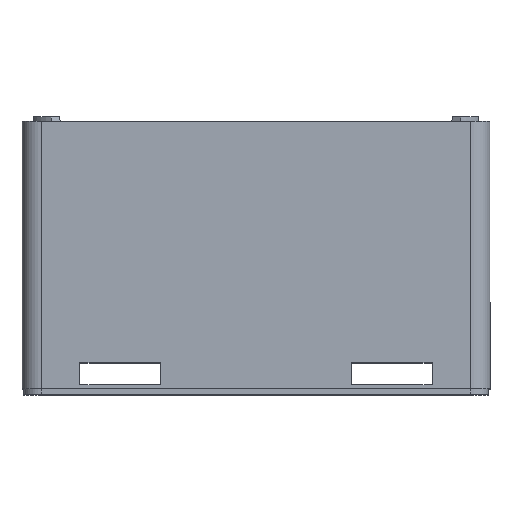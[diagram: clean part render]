
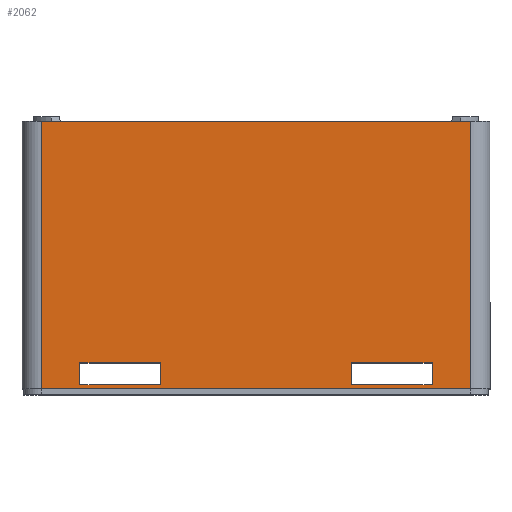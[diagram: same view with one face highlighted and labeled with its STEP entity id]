
A CAD part, top view. The second image highlights one B-rep face of the part: STEP entity #2062.
In plain terms, the highlighted planar face has unit normal (0, 0, 1).
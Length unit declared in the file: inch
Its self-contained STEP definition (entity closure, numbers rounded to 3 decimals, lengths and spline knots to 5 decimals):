
#26 = CARTESIAN_POINT ( 'NONE',  ( 0., 0.57384, 48. ) ) ;
#47 = EDGE_LOOP ( 'NONE', ( #1767, #539, #1956, #2299 ) ) ;
#65 = EDGE_CURVE ( 'NONE', #1857, #898, #1949, .T. ) ;
#115 = VECTOR ( 'NONE', #914, 39.37008 ) ;
#188 = VERTEX_POINT ( 'NONE', #635 ) ;
#232 = CARTESIAN_POINT ( 'NONE',  ( 14.18857, 0.98425, 48. ) ) ;
#256 = ORIENTED_EDGE ( 'NONE', *, *, #1144, .T. ) ;
#274 = VERTEX_POINT ( 'NONE', #1231 ) ;
#277 = CARTESIAN_POINT ( 'NONE',  ( 2., 28., 48. ) ) ;
#293 = EDGE_CURVE ( 'NONE', #362, #274, #1604, .T. ) ;
#332 = VECTOR ( 'NONE', #359, 39.37008 ) ;
#351 = CARTESIAN_POINT ( 'NONE',  ( 33.81143, 3.25, 48. ) ) ;
#354 = CARTESIAN_POINT ( 'NONE',  ( 14.18857, 3.25, 48. ) ) ;
#359 = DIRECTION ( 'NONE',  ( 0., -1., 0. ) ) ;
#362 = VERTEX_POINT ( 'NONE', #354 ) ;
#377 = CARTESIAN_POINT ( 'NONE',  ( 2., 28., 48. ) ) ;
#409 = CARTESIAN_POINT ( 'NONE',  ( 2., 0.57384, 48. ) ) ;
#414 = CARTESIAN_POINT ( 'NONE',  ( 46., 28., 48. ) ) ;
#443 = LINE ( 'NONE', #922, #1340 ) ;
#517 = CARTESIAN_POINT ( 'NONE',  ( 42.05568, 0.98425, 48. ) ) ;
#528 = EDGE_CURVE ( 'NONE', #775, #2237, #2348, .T. ) ;
#539 = ORIENTED_EDGE ( 'NONE', *, *, #293, .F. ) ;
#545 = VERTEX_POINT ( 'NONE', #1150 ) ;
#581 = DIRECTION ( 'NONE',  ( 1., 0., 0. ) ) ;
#613 = CARTESIAN_POINT ( 'NONE',  ( 42.05568, 3.25, 48. ) ) ;
#635 = CARTESIAN_POINT ( 'NONE',  ( 5.94432, 0.98425, 48. ) ) ;
#652 = DIRECTION ( 'NONE',  ( 0., -1., 0. ) ) ;
#678 = VECTOR ( 'NONE', #1171, 39.37008 ) ;
#690 = ORIENTED_EDGE ( 'NONE', *, *, #65, .T. ) ;
#697 = VERTEX_POINT ( 'NONE', #232 ) ;
#720 = DIRECTION ( 'NONE',  ( 0., 1., 0. ) ) ;
#723 = ORIENTED_EDGE ( 'NONE', *, *, #1531, .T. ) ;
#775 = VERTEX_POINT ( 'NONE', #2378 ) ;
#786 = FACE_BOUND ( 'NONE', #47, .T. ) ;
#896 = VECTOR ( 'NONE', #2275, 39.37008 ) ;
#898 = VERTEX_POINT ( 'NONE', #925 ) ;
#914 = DIRECTION ( 'NONE',  ( -1., 0., 0. ) ) ;
#922 = CARTESIAN_POINT ( 'NONE',  ( 0., 28., 48. ) ) ;
#925 = CARTESIAN_POINT ( 'NONE',  ( 46., 28., 48. ) ) ;
#964 = LINE ( 'NONE', #1401, #1428 ) ;
#993 = CARTESIAN_POINT ( 'NONE',  ( 14.18857, 3.25, 48. ) ) ;
#1046 = CARTESIAN_POINT ( 'NONE',  ( 33.81143, 0.98425, 48. ) ) ;
#1108 = DIRECTION ( 'NONE',  ( -1., 0., 0. ) ) ;
#1132 = LINE ( 'NONE', #517, #115 ) ;
#1144 = EDGE_CURVE ( 'NONE', #545, #775, #2027, .T. ) ;
#1150 = CARTESIAN_POINT ( 'NONE',  ( 33.81143, 3.25, 48. ) ) ;
#1158 = VERTEX_POINT ( 'NONE', #409 ) ;
#1171 = DIRECTION ( 'NONE',  ( 0., 1., 0. ) ) ;
#1192 = EDGE_CURVE ( 'NONE', #697, #362, #1307, .T. ) ;
#1199 = AXIS2_PLACEMENT_3D ( 'NONE', #2249, #1311, #1108 ) ;
#1231 = CARTESIAN_POINT ( 'NONE',  ( 5.94432, 3.25, 48. ) ) ;
#1275 = VECTOR ( 'NONE', #581, 39.37008 ) ;
#1286 = ORIENTED_EDGE ( 'NONE', *, *, #1561, .T. ) ;
#1307 = LINE ( 'NONE', #993, #678 ) ;
#1311 = DIRECTION ( 'NONE',  ( 0., 0., 1. ) ) ;
#1340 = VECTOR ( 'NONE', #1464, 39.37008 ) ;
#1360 = LINE ( 'NONE', #1768, #1711 ) ;
#1401 = CARTESIAN_POINT ( 'NONE',  ( 5.94432, 3.25, 48. ) ) ;
#1428 = VECTOR ( 'NONE', #652, 39.37008 ) ;
#1464 = DIRECTION ( 'NONE',  ( -1., 0., 0. ) ) ;
#1472 = EDGE_LOOP ( 'NONE', ( #1640, #690, #723, #1987 ) ) ;
#1485 = VECTOR ( 'NONE', #1713, 39.37008 ) ;
#1489 = CARTESIAN_POINT ( 'NONE',  ( 42.05568, 3.25, 48. ) ) ;
#1498 = EDGE_CURVE ( 'NONE', #1158, #2364, #2202, .T. ) ;
#1531 = EDGE_CURVE ( 'NONE', #898, #2364, #443, .T. ) ;
#1561 = EDGE_CURVE ( 'NONE', #2301, #545, #2082, .T. ) ;
#1602 = CARTESIAN_POINT ( 'NONE',  ( 46., 0.57384, 48. ) ) ;
#1604 = LINE ( 'NONE', #2340, #2001 ) ;
#1624 = VECTOR ( 'NONE', #2229, 39.37008 ) ;
#1640 = ORIENTED_EDGE ( 'NONE', *, *, #2143, .T. ) ;
#1651 = FACE_BOUND ( 'NONE', #2161, .T. ) ;
#1689 = CARTESIAN_POINT ( 'NONE',  ( 42.05568, 0.98425, 48. ) ) ;
#1711 = VECTOR ( 'NONE', #2311, 39.37008 ) ;
#1713 = DIRECTION ( 'NONE',  ( 1., 0., 0. ) ) ;
#1767 = ORIENTED_EDGE ( 'NONE', *, *, #2359, .F. ) ;
#1768 = CARTESIAN_POINT ( 'NONE',  ( 5.94432, 0.98425, 48. ) ) ;
#1857 = VERTEX_POINT ( 'NONE', #1602 ) ;
#1871 = FACE_OUTER_BOUND ( 'NONE', #1472, .T. ) ;
#1910 = VECTOR ( 'NONE', #720, 39.37008 ) ;
#1913 = EDGE_CURVE ( 'NONE', #2237, #2301, #1132, .T. ) ;
#1949 = LINE ( 'NONE', #414, #896 ) ;
#1956 = ORIENTED_EDGE ( 'NONE', *, *, #1192, .F. ) ;
#1978 = DIRECTION ( 'NONE',  ( -1., 0., 0. ) ) ;
#1987 = ORIENTED_EDGE ( 'NONE', *, *, #1498, .F. ) ;
#2001 = VECTOR ( 'NONE', #1978, 39.37008 ) ;
#2027 = LINE ( 'NONE', #613, #1485 ) ;
#2047 = PLANE ( 'NONE',  #1199 ) ;
#2062 = ADVANCED_FACE ( 'NONE', ( #786, #1871, #1651 ), #2047, .T. ) ;
#2082 = LINE ( 'NONE', #351, #1624 ) ;
#2143 = EDGE_CURVE ( 'NONE', #1158, #1857, #2339, .T. ) ;
#2161 = EDGE_LOOP ( 'NONE', ( #2213, #2163, #1286, #256 ) ) ;
#2163 = ORIENTED_EDGE ( 'NONE', *, *, #1913, .T. ) ;
#2202 = LINE ( 'NONE', #377, #1910 ) ;
#2213 = ORIENTED_EDGE ( 'NONE', *, *, #528, .T. ) ;
#2229 = DIRECTION ( 'NONE',  ( 0., 1., 0. ) ) ;
#2237 = VERTEX_POINT ( 'NONE', #1689 ) ;
#2249 = CARTESIAN_POINT ( 'NONE',  ( 0., 0., 48. ) ) ;
#2275 = DIRECTION ( 'NONE',  ( 0., 1., 0. ) ) ;
#2299 = ORIENTED_EDGE ( 'NONE', *, *, #2394, .F. ) ;
#2301 = VERTEX_POINT ( 'NONE', #1046 ) ;
#2311 = DIRECTION ( 'NONE',  ( 1., 0., 0. ) ) ;
#2339 = LINE ( 'NONE', #26, #1275 ) ;
#2340 = CARTESIAN_POINT ( 'NONE',  ( 5.94432, 3.25, 48. ) ) ;
#2348 = LINE ( 'NONE', #1489, #332 ) ;
#2359 = EDGE_CURVE ( 'NONE', #274, #188, #964, .T. ) ;
#2364 = VERTEX_POINT ( 'NONE', #277 ) ;
#2378 = CARTESIAN_POINT ( 'NONE',  ( 42.05568, 3.25, 48. ) ) ;
#2394 = EDGE_CURVE ( 'NONE', #188, #697, #1360, .T. ) ;
